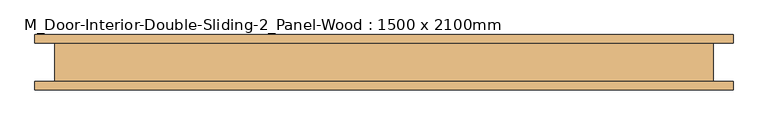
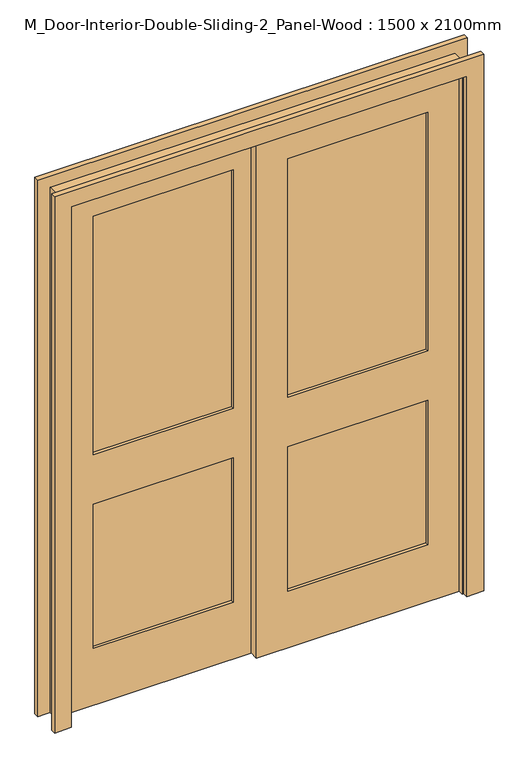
"""IFC4 building model written with IfcOpenShell, lengths in millimetres: door geometry, M_Door-Interior-Double-Sliding-2_Panel-Wood : 1500 x 2100mm."""

from ifc_helpers import new_model, si_unit, frame, origin, place, context, project, spatial, polyline, outline, extrude, source, transform, mapped, element, save


def m_door_interior_double_sliding_2_panel_wood_1500_x_2100mm_1f0085da(model_context):
    return source(origin(), model_context, "Body", "SweptSolid", [
        extrude(outline(polyline([(630.0, -16.5083333), (94.6, -16.5083333), (94.6, -4.8416667), (630.0, -4.8416667), (630.0, -16.5083333)])), frame((0.0, 0.0, 1014.4), z_axis=(0.0, 0.0, 1.0), x_axis=(1.0, 0.0, 0.0)), (0.0, 0.0, 1.0), 965.6),
        extrude(outline(polyline([(630.0, -16.5083333), (94.6, -16.5083333), (94.6, -4.8416667), (630.0, -4.8416667), (630.0, -16.5083333)])), frame((0.0, 0.0, 230.0), z_axis=(0.0, 0.0, 1.0), x_axis=(1.0, 0.0, 0.0)), (0.0, 0.0, 1.0), 584.4),
        extrude(outline(polyline([(2100.0, -25.4), (0.0, -25.4), (0.0, 750.0), (2100.0, 750.0), (2100.0, -25.4)]), holes=[polyline([(1980.0, 94.6), (1980.0, 630.0), (1014.4, 630.0), (1014.4, 94.6), (1980.0, 94.6)]), polyline([(814.4, 94.6), (814.4, 630.0), (230.0, 630.0), (230.0, 94.6), (814.4, 94.6)])]), frame((0.0, -28.175, 0.0), z_axis=(0.0, 1.0, 0.0), x_axis=(0.0, 0.0, 1.0)), (0.0, 0.0, 1.0), 35.0),
        extrude(outline(polyline([(-94.6, 18.4916667), (-630.0, 18.4916667), (-630.0, 30.1583333), (-94.6, 30.1583333), (-94.6, 18.4916667)])), frame((0.0, 0.0, 1014.4), z_axis=(0.0, 0.0, 1.0), x_axis=(1.0, 0.0, 0.0)), (0.0, 0.0, 1.0), 965.6),
        extrude(outline(polyline([(-94.6, 18.4916667), (-630.0, 18.4916667), (-630.0, 30.1583333), (-94.6, 30.1583333), (-94.6, 18.4916667)])), frame((0.0, 0.0, 230.0), z_axis=(0.0, 0.0, 1.0), x_axis=(1.0, 0.0, 0.0)), (0.0, 0.0, 1.0), 584.4),
        extrude(outline(polyline([(2100.0, -750.0), (0.0, -750.0), (0.0, 25.4), (2100.0, 25.4), (2100.0, -750.0)]), holes=[polyline([(1980.0, -630.0), (1980.0, -94.6), (1014.4, -94.6), (1014.4, -630.0), (1980.0, -630.0)]), polyline([(814.4, -630.0), (814.4, -94.6), (230.0, -94.6), (230.0, -630.0), (814.4, -630.0)])]), frame((0.0, 6.825, 0.0), z_axis=(0.0, 1.0, 0.0), x_axis=(0.0, 0.0, 1.0)), (0.0, 0.0, 1.0), 35.0),
        extrude(outline(polyline([(0.0, 750.0), (0.0, 775.0), (2125.0, 775.0), (2125.0, -775.0), (0.0, -775.0), (0.0, -750.0), (2100.0, -750.0), (2100.0, 750.0), (0.0, 750.0)])), frame((0.0, -48.175, 0.0), z_axis=(0.0, 1.0, 0.0), x_axis=(0.0, 0.0, 1.0)), (0.0, 0.0, 1.0), 90.0),
        extrude(outline(polyline([(0.0, 756.35), (0.0, 821.35), (2171.35, 821.35), (2171.35, -821.35), (0.0, -821.35), (0.0, -756.35), (2106.35, -756.35), (2106.35, 756.35), (0.0, 756.35)])), frame((0.0, -68.175, 0.0), z_axis=(0.0, 1.0, 0.0), x_axis=(0.0, 0.0, 1.0)), (0.0, 0.0, 1.0), 20.0),
        extrude(outline(polyline([(0.0, 756.35), (0.0, 821.35), (2171.35, 821.35), (2171.35, -821.35), (0.0, -821.35), (0.0, -756.35), (2106.35, -756.35), (2106.35, 756.35), (0.0, 756.35)])), frame((0.0, 41.825, 0.0), z_axis=(0.0, 1.0, 0.0), x_axis=(0.0, 0.0, 1.0)), (0.0, 0.0, 1.0), 20.0),
    ])


if __name__ == "__main__":
    model = new_model("IFC4")
    model_context = context("Model", 3, world=origin())
    ifc_project = project(units=[si_unit("LENGTHUNIT", "METRE", prefix="MILLI")], contexts=[model_context])
    site = spatial("IfcSite", under=ifc_project)
    building = spatial("IfcBuilding", under=site)
    placement = place(None, origin())
    m_door_interior_double_sliding_2_panel_wood_1500_x_2100mm_shape = m_door_interior_double_sliding_2_panel_wood_1500_x_2100mm_1f0085da(model_context)
    element("IfcDoor", 1, ObjectType="M_Door-Interior-Double-Sliding-2_Panel-Wood : 1500 x 2100mm", at=placement, inside=building, context=model_context, shape_type="MappedRepresentation", body=[
        mapped(m_door_interior_double_sliding_2_panel_wood_1500_x_2100mm_shape, transform((0.0, 0.0, 0.0), x_axis=(1.0, 0.0, 0.0), y_axis=(0.0, 1.0, 0.0), z_axis=(0.0, 0.0, 1.0))),
    ])
    save(model, "model.ifc")
